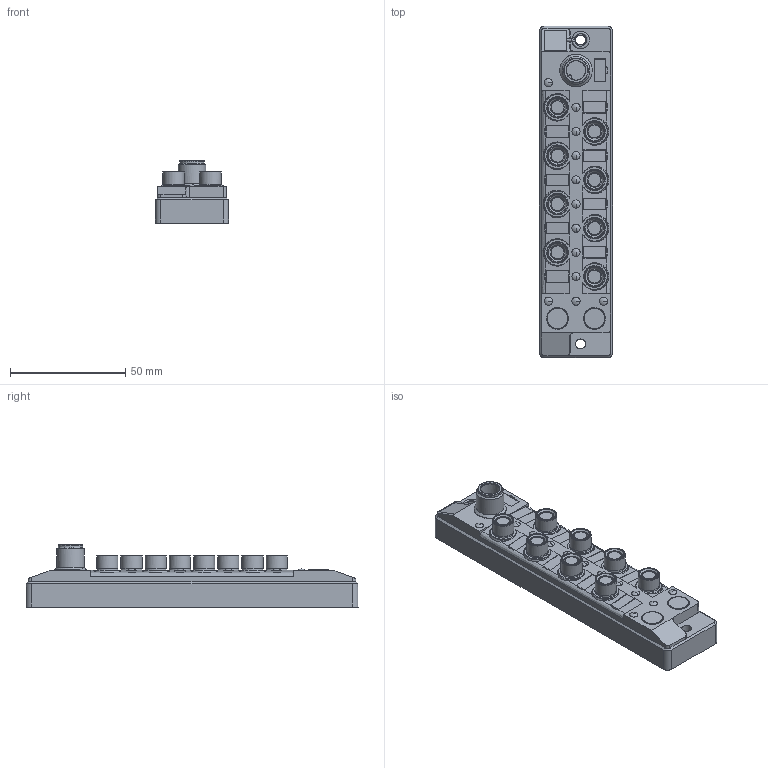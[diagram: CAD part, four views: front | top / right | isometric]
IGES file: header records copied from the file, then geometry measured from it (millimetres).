
Global section: file name: H:\lem\3DCAD_MD_742_11_82IO3_12.igs; native system: NX V11.0; preprocessor: SIEMENS PLM Software NX 11.0; date: 20201104.135332; units: millimetre
Bounding box: 31.79 x 144.19 x 27 mm (x, y, z)
Surface area: 19845.3 mm2 (no closed solid volume)
Topology: 0 solids, 0 shells, 404 faces, 2755 edges, 2632 vertices
Faces by surface type: bspline 404
